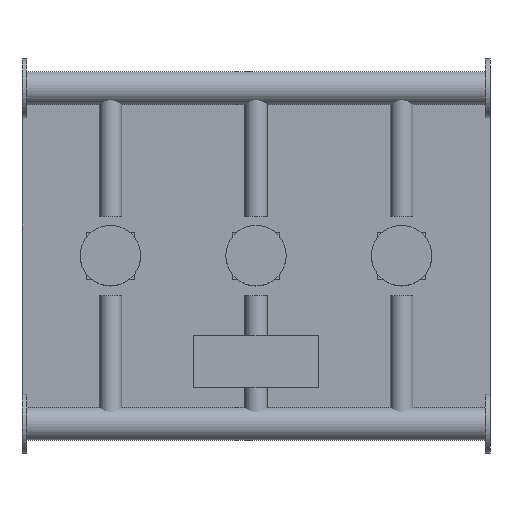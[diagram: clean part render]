
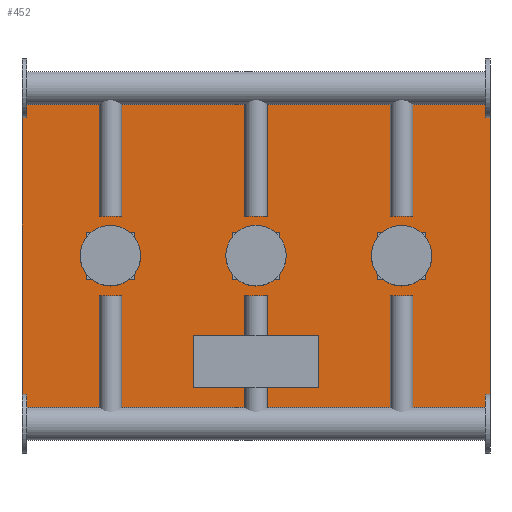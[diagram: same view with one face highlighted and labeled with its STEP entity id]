
A CAD part, top view. The second image highlights one B-rep face of the part: STEP entity #452.
In plain terms, the highlighted planar face has unit normal (0, 0, 1).
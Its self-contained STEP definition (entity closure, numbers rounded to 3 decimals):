
#138 = VERTEX_POINT('',#139);
#139 = CARTESIAN_POINT('',(0.,102.5,120.));
#146 = PLANE('',#147);
#147 = AXIS2_PLACEMENT_3D('',#148,#149,#150);
#148 = CARTESIAN_POINT('',(0.,102.5,0.));
#149 = DIRECTION('',(1.,0.,0.));
#150 = DIRECTION('',(0.,0.,1.));
#158 = PLANE('',#159);
#159 = AXIS2_PLACEMENT_3D('',#160,#161,#162);
#160 = CARTESIAN_POINT('',(0.,102.5,0.));
#161 = DIRECTION('',(0.,1.,0.));
#162 = DIRECTION('',(0.,0.,1.));
#199 = VERTEX_POINT('',#200);
#200 = CARTESIAN_POINT('',(0.,1797.5,120.));
#214 = PLANE('',#215);
#215 = AXIS2_PLACEMENT_3D('',#216,#217,#218);
#216 = CARTESIAN_POINT('',(0.,1797.5,0.));
#217 = DIRECTION('',(0.,1.,0.));
#218 = DIRECTION('',(0.,0.,1.));
#226 = EDGE_CURVE('',#138,#199,#227,.T.);
#227 = SURFACE_CURVE('',#228,(#232,#239),.PCURVE_S1.);
#228 = LINE('',#229,#230);
#229 = CARTESIAN_POINT('',(0.,102.5,120.));
#230 = VECTOR('',#231,1.);
#231 = DIRECTION('',(0.,1.,0.));
#232 = PCURVE('',#146,#233);
#233 = DEFINITIONAL_REPRESENTATION('',(#234),#238);
#234 = LINE('',#235,#236);
#235 = CARTESIAN_POINT('',(120.,0.));
#236 = VECTOR('',#237,1.);
#237 = DIRECTION('',(0.,-1.));
#238 = ( GEOMETRIC_REPRESENTATION_CONTEXT(2) 
PARAMETRIC_REPRESENTATION_CONTEXT() REPRESENTATION_CONTEXT('2D SPACE',''
  ) );
#239 = PCURVE('',#240,#245);
#240 = PLANE('',#241);
#241 = AXIS2_PLACEMENT_3D('',#242,#243,#244);
#242 = CARTESIAN_POINT('',(0.,102.5,120.));
#243 = DIRECTION('',(0.,0.,1.));
#244 = DIRECTION('',(1.,0.,0.));
#245 = DEFINITIONAL_REPRESENTATION('',(#246),#250);
#246 = LINE('',#247,#248);
#247 = CARTESIAN_POINT('',(0.,0.));
#248 = VECTOR('',#249,1.);
#249 = DIRECTION('',(0.,1.));
#250 = ( GEOMETRIC_REPRESENTATION_CONTEXT(2) 
PARAMETRIC_REPRESENTATION_CONTEXT() REPRESENTATION_CONTEXT('2D SPACE',''
  ) );
#258 = VERTEX_POINT('',#259);
#259 = CARTESIAN_POINT('',(2250.,102.5,120.));
#266 = PLANE('',#267);
#267 = AXIS2_PLACEMENT_3D('',#268,#269,#270);
#268 = CARTESIAN_POINT('',(2250.,102.5,0.));
#269 = DIRECTION('',(1.,0.,0.));
#270 = DIRECTION('',(0.,0.,1.));
#309 = VERTEX_POINT('',#310);
#310 = CARTESIAN_POINT('',(2250.,1797.5,120.));
#331 = EDGE_CURVE('',#258,#309,#332,.T.);
#332 = SURFACE_CURVE('',#333,(#337,#344),.PCURVE_S1.);
#333 = LINE('',#334,#335);
#334 = CARTESIAN_POINT('',(2250.,102.5,120.));
#335 = VECTOR('',#336,1.);
#336 = DIRECTION('',(0.,1.,0.));
#337 = PCURVE('',#266,#338);
#338 = DEFINITIONAL_REPRESENTATION('',(#339),#343);
#339 = LINE('',#340,#341);
#340 = CARTESIAN_POINT('',(120.,0.));
#341 = VECTOR('',#342,1.);
#342 = DIRECTION('',(0.,-1.));
#343 = ( GEOMETRIC_REPRESENTATION_CONTEXT(2) 
PARAMETRIC_REPRESENTATION_CONTEXT() REPRESENTATION_CONTEXT('2D SPACE',''
  ) );
#344 = PCURVE('',#240,#345);
#345 = DEFINITIONAL_REPRESENTATION('',(#346),#350);
#346 = LINE('',#347,#348);
#347 = CARTESIAN_POINT('',(2250.,0.));
#348 = VECTOR('',#349,1.);
#349 = DIRECTION('',(0.,1.));
#350 = ( GEOMETRIC_REPRESENTATION_CONTEXT(2) 
PARAMETRIC_REPRESENTATION_CONTEXT() REPRESENTATION_CONTEXT('2D SPACE',''
  ) );
#377 = EDGE_CURVE('',#138,#258,#378,.T.);
#378 = SURFACE_CURVE('',#379,(#383,#390),.PCURVE_S1.);
#379 = LINE('',#380,#381);
#380 = CARTESIAN_POINT('',(0.,102.5,120.));
#381 = VECTOR('',#382,1.);
#382 = DIRECTION('',(1.,0.,0.));
#383 = PCURVE('',#158,#384);
#384 = DEFINITIONAL_REPRESENTATION('',(#385),#389);
#385 = LINE('',#386,#387);
#386 = CARTESIAN_POINT('',(120.,0.));
#387 = VECTOR('',#388,1.);
#388 = DIRECTION('',(0.,1.));
#389 = ( GEOMETRIC_REPRESENTATION_CONTEXT(2) 
PARAMETRIC_REPRESENTATION_CONTEXT() REPRESENTATION_CONTEXT('2D SPACE',''
  ) );
#390 = PCURVE('',#240,#391);
#391 = DEFINITIONAL_REPRESENTATION('',(#392),#396);
#392 = LINE('',#393,#394);
#393 = CARTESIAN_POINT('',(0.,0.));
#394 = VECTOR('',#395,1.);
#395 = DIRECTION('',(1.,0.));
#396 = ( GEOMETRIC_REPRESENTATION_CONTEXT(2) 
PARAMETRIC_REPRESENTATION_CONTEXT() REPRESENTATION_CONTEXT('2D SPACE',''
  ) );
#424 = EDGE_CURVE('',#199,#309,#425,.T.);
#425 = SURFACE_CURVE('',#426,(#430,#437),.PCURVE_S1.);
#426 = LINE('',#427,#428);
#427 = CARTESIAN_POINT('',(0.,1797.5,120.));
#428 = VECTOR('',#429,1.);
#429 = DIRECTION('',(1.,0.,0.));
#430 = PCURVE('',#214,#431);
#431 = DEFINITIONAL_REPRESENTATION('',(#432),#436);
#432 = LINE('',#433,#434);
#433 = CARTESIAN_POINT('',(120.,0.));
#434 = VECTOR('',#435,1.);
#435 = DIRECTION('',(0.,1.));
#436 = ( GEOMETRIC_REPRESENTATION_CONTEXT(2) 
PARAMETRIC_REPRESENTATION_CONTEXT() REPRESENTATION_CONTEXT('2D SPACE',''
  ) );
#437 = PCURVE('',#240,#438);
#438 = DEFINITIONAL_REPRESENTATION('',(#439),#443);
#439 = LINE('',#440,#441);
#440 = CARTESIAN_POINT('',(0.,1695.));
#441 = VECTOR('',#442,1.);
#442 = DIRECTION('',(1.,0.));
#443 = ( GEOMETRIC_REPRESENTATION_CONTEXT(2) 
PARAMETRIC_REPRESENTATION_CONTEXT() REPRESENTATION_CONTEXT('2D SPACE',''
  ) );
#452 = ADVANCED_FACE('',(#453),#240,.T.);
#453 = FACE_BOUND('',#454,.T.);
#454 = EDGE_LOOP('',(#455,#456,#457,#458));
#455 = ORIENTED_EDGE('',*,*,#226,.F.);
#456 = ORIENTED_EDGE('',*,*,#377,.T.);
#457 = ORIENTED_EDGE('',*,*,#331,.T.);
#458 = ORIENTED_EDGE('',*,*,#424,.F.);
